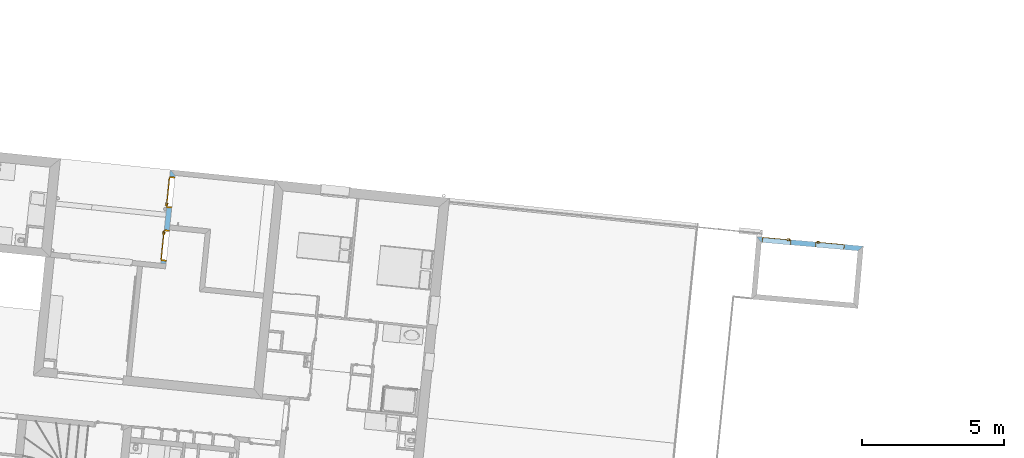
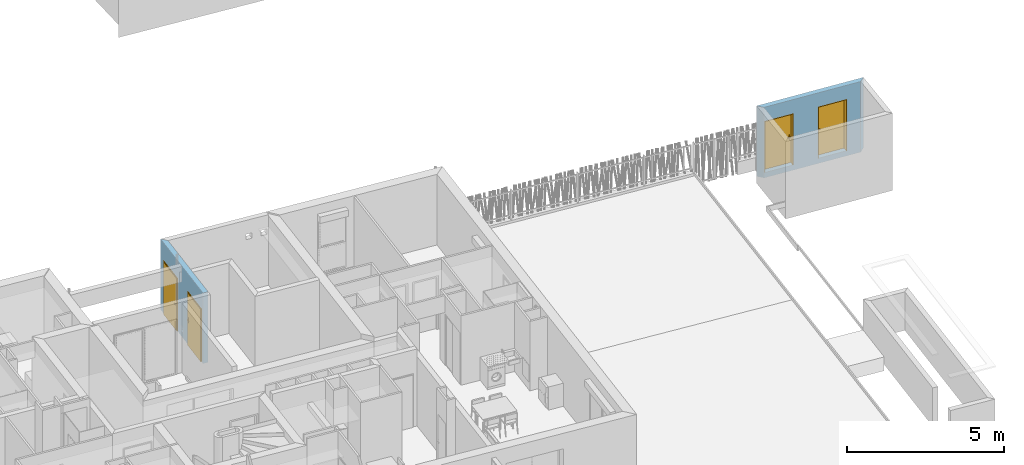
# One storey, part 112 of 171: 4 doors, 5 openings, plus 2 elements that do not belong to this part.
"""IFC2X3 building model written with IfcOpenShell, lengths in millimetres."""

from ifc_helpers import new_model, entity, si_unit, converted_unit, derived_unit, money_unit, direction, frame, origin_with_axes, origin_2d_with_axis, place, context, subcontext, project, spatial, polyline, rectangle, outline, extrude, faceted_brep, material, layer, layer_set, layer_usage, type_object, element, fill, save


model = new_model("IFC2X3")

# Units and contexts
model_context = context("Model", 3, precision=0.01, world=origin_with_axes(), true_north=direction((0.0, 1.0)))
body_context = subcontext(model_context, "Body", "Model", "MODEL_VIEW")
ifc_project = project(units=[si_unit("LENGTHUNIT", "METRE", prefix="MILLI"), si_unit("AREAUNIT", "SQUARE_METRE"), si_unit("VOLUMEUNIT", "CUBIC_METRE"), converted_unit("PLANEANGLEUNIT", "DEGREE", entity("IfcPlaneAngleMeasure", 0.0174532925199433), si_unit("PLANEANGLEUNIT", "RADIAN"), dimensions=[0, 0, 0, 0, 0, 0, 0]), money_unit("USD"), converted_unit("TIMEUNIT", "Year", entity("IfcTimeMeasure", 31557600.0), si_unit("TIMEUNIT", "SECOND"), dimensions=[0, 0, 1, 0, 0, 0, 0]), si_unit("MASSUNIT", "GRAM", prefix="KILO"), si_unit("THERMODYNAMICTEMPERATUREUNIT", "DEGREE_CELSIUS"), si_unit("LUMINOUSINTENSITYUNIT", "LUMEN"), si_unit("ENERGYUNIT", "JOULE", prefix="MEGA"), derived_unit("THERMALCONDUCTANCEUNIT", [(si_unit("POWERUNIT", "WATT"), 1), (si_unit("LENGTHUNIT", "METRE"), -1), (si_unit("THERMODYNAMICTEMPERATUREUNIT", "KELVIN"), -1)]), derived_unit("SPECIFICHEATCAPACITYUNIT", [(si_unit("ENERGYUNIT", "JOULE"), 1), (si_unit("MASSUNIT", "GRAM", prefix="KILO"), -1), (si_unit("THERMODYNAMICTEMPERATUREUNIT", "KELVIN"), -1)]), derived_unit("MASSDENSITYUNIT", [(si_unit("MASSUNIT", "GRAM", prefix="KILO"), 1), (si_unit("VOLUMEUNIT", "CUBIC_METRE"), -1)])], contexts=[model_context])

# Site, building, storey
site_placement = place(None, origin_with_axes())
site = spatial("IfcSite", under=ifc_project, at=site_placement, Name="Site", CompositionType="ELEMENT")
building_placement = place(site_placement, origin_with_axes())
building = spatial("IfcBuilding", under=site, at=building_placement, Name="Bâtiment", CompositionType="ELEMENT")
storey_placement = place(building_placement, frame((0.0, 0.0, 3000.0), z_axis=(0.0, 0.0, 1.0), x_axis=(1.0, 0.0, 0.0)))
storey = spatial("IfcBuildingStorey", under=building, at=storey_placement, Name="rdc", CompositionType="ELEMENT", Elevation=3000.0)

# Wall, openings, doors
ifc_material = material(Name="Parpaing 314940890")
ifc_layer = layer(ifc_material, 180.0, ventilated="UNKNOWN")
ifc_layer_set = layer_set([ifc_layer], Name="Beton  18 0018356637")
ifc_layer_usage_1 = layer_usage(ifc_layer_set, "AXIS2", "POSITIVE", 0.0)
wall_type = type_object("IfcWallType", Name="Beton  18 0018356637 180", PredefinedType="NOTDEFINED")
wall_1_placement = place(storey_placement, frame((2254723.103832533, -607922.215474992, -600.0000000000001), z_axis=(0.0, 0.0, 1.0), x_axis=(-0.9961532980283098, 0.08762766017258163, 0.0)))
wall_1 = element("IfcWallStandardCase", 1, at=wall_1_placement, inside=storey, type_object=wall_type, material=ifc_layer_usage_1, Name="Mur-142", context=body_context, shape_type="SweptSolid", body=[
    extrude(outline(polyline([(0.0, 0.0), (3762.228864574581, 0.0), (3582.228864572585, 179.9999999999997), (179.9999999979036, 179.9999999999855), (0.0, 0.0)])), origin_with_axes(), (0.0, 0.0, 1.0), 2750.0),
])
opening_1_placement = place(wall_1_placement, frame((3054.178626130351, 0.0, 200.0000000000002), z_axis=(0.0, 0.0, 1.0), x_axis=(1.0, 0.0, 0.0)))
opening_1 = element("IfcOpeningElement", 2, at=opening_1_placement, cuts=wall_1, Name="Por-277", context=body_context, shape_type="SweptSolid", body=[
    extrude(rectangle(XDim=1020.000001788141, YDim=2010.0, at=origin_2d_with_axis()), frame((8.940332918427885e-07, 179.9999999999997, 1005.0), z_axis=(0.0, 1.0, 0.0), x_axis=(1.0, 0.0, 0.0)), (0.0, 0.0, -1.0), 360.0),
])
opening_2_placement = place(wall_1_placement, frame((1175.34071080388, 0.0, 200.0000000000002), z_axis=(0.0, 0.0, 1.0), x_axis=(1.0, 0.0, 0.0)))
opening_2 = element("IfcOpeningElement", 3, at=opening_2_placement, cuts=wall_1, Name="Por-277", context=body_context, shape_type="SweptSolid", body=[
    extrude(rectangle(XDim=1020.000001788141, YDim=2010.0, at=origin_2d_with_axis()), frame((-8.940332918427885e-07, 179.9999999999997, 1005.0), z_axis=(0.0, -1.0, 0.0), x_axis=(-1.0, 0.0, 0.0)), (0.0, 0.0, 1.0), 360.0),
])
door_style = type_object("IfcDoorStyle", Name="Porte_1v", ConstructionType="NOTDEFINED", OperationType="NOTDEFINED", ParameterTakesPrecedence=False, Sizeable=False)
door_1_placement = place(opening_1_placement, frame((499.9999999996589, 0.0, 0.0), z_axis=(0.0, 0.0, 1.0), x_axis=(-1.0, 0.0, 0.0)))
door_1 = element("IfcDoor", 4, at=door_1_placement, inside=storey, type_object=door_style, Name="Por-277", OverallHeight=2000.0, OverallWidth=1000.0, context=body_context, shape_type="Brep", body=[
    faceted_brep([(-10.00000000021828, 0.0, 0.0), (-10.00000000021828, 0.0, 2009.999999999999), (1009.999999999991, 0.0, 2009.999999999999), (1009.999999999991, 0.0, 0.0), (999.9999999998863, 0.0, 0.0), (999.9999999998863, 0.0, 2000.0), (0.0, 0.0, 2000.0), (0.0, 0.0, 0.0), (-10.00000000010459, -180.0000000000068, 0.0), (-10.00000000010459, -180.0000000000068, 2009.999999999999), (1009.999999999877, -180.0000000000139, 2009.999999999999), (1009.999999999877, -180.0000000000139, 0.0), (989.9999999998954, -180.0000000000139, 0.0), (990.0000000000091, -15.00000000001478, 0.0), (999.9999999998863, -15.00000000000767, 0.0), (999.9999999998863, -15.00000000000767, 2000.0), (-1.13686837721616e-10, -15.00000000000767, 2000.0), (-1.13686837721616e-10, -15.00000000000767, 0.0), (9.999999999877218, -15.00000000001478, 0.0), (9.999999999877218, -180.0000000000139, 0.0), (9.999999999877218, -180.0000000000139, 1990.0), (989.9999999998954, -180.0000000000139, 1990.0), (990.0000000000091, -15.00000000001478, 1990.0), (9.999999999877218, -15.00000000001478, 1990.0)], [[[0, 1, 2, 3, 4, 5, 6, 7]], [[8, 9, 1, 0]], [[9, 10, 2, 1]], [[10, 11, 3, 2]], [[3, 11, 12, 13, 14, 4]], [[5, 4, 14, 15]], [[6, 5, 15, 16]], [[7, 6, 16, 17]], [[0, 7, 17, 18, 19, 8]], [[19, 20, 21, 12, 11, 10, 9, 8]], [[22, 13, 12, 21]], [[17, 16, 15, 14, 13, 22, 23, 18]], [[18, 23, 20, 19]], [[23, 22, 21, 20]]]),
    faceted_brep([(934.9999999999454, -15.00000000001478, 899.9999999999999), (934.9999999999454, -15.00000000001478, 1100.0), (974.999999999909, -15.00000000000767, 1100.0), (974.999999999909, -15.00000000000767, 899.9999999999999), (934.9999999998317, -25.00000000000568, 899.9999999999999), (934.9999999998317, -25.00000000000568, 1100.0), (974.999999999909, -25.00000000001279, 1100.0), (974.999999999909, -25.00000000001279, 899.9999999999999)], [[[0, 1, 2, 3]], [[0, 4, 5, 1]], [[1, 5, 6, 2]], [[2, 6, 7, 3]], [[3, 7, 4, 0]], [[7, 6, 5, 4]]]),
    faceted_brep([(864.9999999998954, -25.0000000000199, 1000.0), (864.9999999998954, -25.0000000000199, 1020.0), (964.9999999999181, -25.00000000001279, 1020.0), (964.9999999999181, -25.00000000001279, 1000.0), (864.9999999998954, -45.00000000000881, 1000.0), (864.9999999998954, -45.00000000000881, 1020.0), (964.9999999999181, -45.00000000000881, 1020.0), (964.9999999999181, -45.00000000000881, 1000.0)], [[[0, 1, 2, 3]], [[0, 4, 5, 1]], [[1, 5, 6, 2]], [[2, 6, 7, 3]], [[3, 7, 4, 0]], [[7, 6, 5, 4]]]),
    faceted_brep([(934.9999999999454, 14.99999999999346, 899.9999999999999), (934.9999999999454, 14.99999999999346, 1100.0), (974.999999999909, 14.99999999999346, 1100.0), (974.999999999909, 14.99999999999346, 899.9999999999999), (934.9999999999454, 4.999999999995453, 899.9999999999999), (934.9999999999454, 4.999999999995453, 1100.0), (974.9999999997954, 4.999999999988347, 1100.0), (974.9999999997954, 4.999999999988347, 899.9999999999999)], [[[0, 1, 2, 3]], [[0, 4, 5, 1]], [[1, 5, 6, 2]], [[2, 6, 7, 3]], [[3, 7, 4, 0]], [[7, 6, 5, 4]]]),
    faceted_brep([(864.9999999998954, 34.99999999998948, 1000.0), (864.9999999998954, 34.99999999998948, 1020.0), (964.9999999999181, 34.99999999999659, 1020.0), (964.9999999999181, 34.99999999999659, 1000.0), (864.9999999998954, 14.99999999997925, 1000.0), (864.9999999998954, 14.99999999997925, 1020.0), (964.9999999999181, 14.99999999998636, 1020.0), (964.9999999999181, 14.99999999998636, 1000.0)], [[[0, 1, 2, 3]], [[0, 4, 5, 1]], [[1, 5, 6, 2]], [[2, 6, 7, 3]], [[3, 7, 4, 0]], [[7, 6, 5, 4]]]),
    faceted_brep([(999.9999999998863, 4.999999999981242, 0.0), (999.9999999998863, -15.00000000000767, 0.0), (-1.13686837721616e-10, -15.00000000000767, 0.0), (0.0, 4.999999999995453, 0.0), (999.9999999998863, 4.999999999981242, 2000.0), (999.9999999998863, -15.00000000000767, 2000.0), (-1.13686837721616e-10, -15.00000000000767, 2000.0), (0.0, 4.999999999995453, 2000.0)], [[[0, 1, 2, 3]], [[4, 5, 1, 0]], [[1, 5, 6, 2]], [[3, 2, 6, 7]], [[0, 3, 7, 4]], [[7, 6, 5, 4]]]),
])
fill(opening_1, door_1)
door_2_placement = place(opening_2_placement, frame((500.0000000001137, 0.0, 0.0), z_axis=(0.0, 0.0, 1.0), x_axis=(-1.0, 0.0, 0.0)))
door_2 = element("IfcDoor", 5, at=door_2_placement, inside=storey, type_object=door_style, Name="Por-277", OverallHeight=2000.0, OverallWidth=1000.0, context=body_context, shape_type="Brep", body=[
    faceted_brep([(1009.999999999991, 0.0, 0.0), (1000.0, 0.0, 0.0), (1000.0, 0.0, 2000.0), (0.0, 0.0, 2000.0), (0.0, 0.0, 0.0), (-9.999999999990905, 0.0, 0.0), (-9.999999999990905, 0.0, 2009.999999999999), (1009.999999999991, 0.0, 2009.999999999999), (1009.999999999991, -180.0000000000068, 0.0), (990.0000000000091, -180.0000000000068, 0.0), (990.0000000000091, -14.99999999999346, 0.0), (1000.0, -15.00000000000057, 0.0), (1000.0, -15.00000000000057, 2000.0), (0.0, -15.00000000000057, 2000.0), (0.0, -15.00000000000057, 0.0), (9.999999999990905, -14.99999999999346, 0.0), (9.999999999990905, -179.9999999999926, 0.0), (-9.999999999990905, -179.9999999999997, 0.0), (-9.999999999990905, -179.9999999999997, 2009.999999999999), (1009.999999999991, -180.0000000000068, 2009.999999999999), (9.999999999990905, -179.9999999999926, 1990.0), (990.0000000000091, -180.0000000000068, 1990.0), (990.0000000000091, -14.99999999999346, 1990.0), (9.999999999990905, -14.99999999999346, 1990.0)], [[[0, 1, 2, 3, 4, 5, 6, 7]], [[0, 8, 9, 10, 11, 1]], [[1, 11, 12, 2]], [[2, 12, 13, 3]], [[3, 13, 14, 4]], [[5, 4, 14, 15, 16, 17]], [[18, 6, 5, 17]], [[19, 7, 6, 18]], [[8, 0, 7, 19]], [[9, 8, 19, 18, 17, 16, 20, 21]], [[10, 9, 21, 22]], [[11, 10, 22, 23, 15, 14, 13, 12]], [[23, 20, 16, 15]], [[22, 21, 20, 23]]]),
    faceted_brep([(64.99999999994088, -15.00000000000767, 899.9999999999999), (25.00000000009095, -15.00000000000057, 899.9999999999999), (25.00000000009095, -15.00000000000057, 1100.0), (64.99999999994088, -15.00000000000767, 1100.0), (64.99999999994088, -24.99999999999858, 899.9999999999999), (25.00000000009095, -24.99999999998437, 899.9999999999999), (25.00000000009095, -24.99999999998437, 1100.0), (64.99999999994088, -24.99999999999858, 1100.0)], [[[0, 1, 2, 3]], [[1, 0, 4, 5]], [[2, 1, 5, 6]], [[3, 2, 6, 7]], [[0, 3, 7, 4]], [[5, 4, 7, 6]]]),
    faceted_brep([(134.9999999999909, -24.99999999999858, 1000.0), (34.99999999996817, -25.00000000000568, 1000.0), (34.99999999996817, -25.00000000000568, 1020.0), (134.9999999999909, -24.99999999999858, 1020.0), (135.0000000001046, -44.9999999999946, 1000.0), (34.99999999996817, -44.9999999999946, 1000.0), (34.99999999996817, -44.9999999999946, 1020.0), (135.0000000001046, -44.9999999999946, 1020.0)], [[[0, 1, 2, 3]], [[1, 0, 4, 5]], [[2, 1, 5, 6]], [[3, 2, 6, 7]], [[0, 3, 7, 4]], [[5, 4, 7, 6]]]),
    faceted_brep([(65.00000000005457, 15.00000000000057, 899.9999999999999), (24.99999999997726, 15.00000000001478, 899.9999999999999), (24.99999999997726, 15.00000000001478, 1100.0), (65.00000000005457, 15.00000000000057, 1100.0), (65.00000000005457, 4.999999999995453, 899.9999999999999), (24.99999999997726, 5.000000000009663, 899.9999999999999), (24.99999999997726, 5.000000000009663, 1100.0), (65.00000000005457, 4.999999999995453, 1100.0)], [[[0, 1, 2, 3]], [[1, 0, 4, 5]], [[2, 1, 5, 6]], [[3, 2, 6, 7]], [[0, 3, 7, 4]], [[5, 4, 7, 6]]]),
    faceted_brep([(135.0000000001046, 35.0000000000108, 1000.0), (34.99999999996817, 35.00000000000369, 1000.0), (34.99999999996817, 35.00000000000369, 1020.0), (135.0000000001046, 35.0000000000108, 1020.0), (134.9999999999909, 15.00000000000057, 1000.0), (35.00000000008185, 14.99999999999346, 1000.0), (35.00000000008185, 14.99999999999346, 1020.0), (134.9999999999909, 15.00000000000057, 1020.0)], [[[0, 1, 2, 3]], [[1, 0, 4, 5]], [[2, 1, 5, 6]], [[3, 2, 6, 7]], [[0, 3, 7, 4]], [[5, 4, 7, 6]]]),
    faceted_brep([(0.0, 5.000000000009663, 0.0), (1000.0, 5.000000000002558, 0.0), (1000.0, -15.00000000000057, 0.0), (0.0, -15.00000000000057, 0.0), (0.0, 5.000000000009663, 2000.0), (1000.0, 5.000000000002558, 2000.0), (1000.0, -15.00000000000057, 2000.0), (0.0, -15.00000000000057, 2000.0)], [[[0, 1, 2, 3]], [[0, 4, 5, 1]], [[1, 5, 6, 2]], [[3, 2, 6, 7]], [[4, 0, 3, 7]], [[5, 4, 7, 6]]]),
])
fill(opening_2, door_2)

ifc_layer_usage_2 = layer_usage(ifc_layer_set, "AXIS2", "POSITIVE", 0.0)
wall_2_placement = place(storey_placement, frame((2230375.549323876, -605239.4852255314, 0.0), z_axis=(0.0, 0.0, 1.0), x_axis=(-0.1011032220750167, -0.9948759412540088, 0.0)))
wall_2 = element("IfcWallStandardCase", 6, at=wall_2_placement, inside=storey, type_object=wall_type, material=ifc_layer_usage_2, Name="Mur-142", context=body_context, shape_type="SweptSolid", body=[
    extrude(outline(polyline([(0.0, 0.0), (3300.366692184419, 0.0), (3300.383693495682, 180.0000000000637), (180.000000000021, 180.0000000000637), (0.0, 0.0)])), origin_with_axes(), (0.0, 0.0, 1.0), 2750.0),
])
opening_3_placement = place(wall_2_placement, frame((1679.999976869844, -1.13686837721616e-10, 200.0000000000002), z_axis=(0.0, 0.0, 1.0), x_axis=(1.0, 0.0, 0.0)))
element("IfcOpeningElement", 7, at=opening_3_placement, cuts=wall_2, Name="Fen-210", context=body_context, shape_type="SweptSolid", body=[
    extrude(rectangle(XDim=209.9999999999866, YDim=210.0, at=origin_2d_with_axis()), frame((0.0, 290.0000000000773, 105.0), z_axis=(0.0, 1.0, 0.0), x_axis=(1.0, 0.0, 0.0)), (0.0, 0.0, -1.0), 470.0),
    extrude(rectangle(XDim=209.9999999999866, YDim=210.0, at=origin_2d_with_axis()), frame((0.0, 289.9999999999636, 105.0), z_axis=(0.0, -1.0, 0.0), x_axis=(1.0, 0.0, 0.0)), (0.0, 0.0, -1.0), 470.0),
])
opening_4_placement = place(wall_2_placement, frame((2662.573142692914, 0.0, 0.0), z_axis=(0.0, 0.0, 1.0), x_axis=(1.0, 0.0, 0.0)))
opening_4 = element("IfcOpeningElement", 8, at=opening_4_placement, cuts=wall_2, Name="Por-302", context=body_context, shape_type="SweptSolid", body=[
    extrude(rectangle(XDim=1109.999992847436, YDim=2080.0, at=origin_2d_with_axis()), frame((-3.576268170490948e-06, 179.9999999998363, 1040.0), z_axis=(0.0, 1.0, 0.0), x_axis=(1.0, 0.0, 0.0)), (0.0, 0.0, -1.0), 360.0),
])
opening_5_placement = place(wall_2_placement, frame((784.7579754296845, -1.13686837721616e-10, 0.0), z_axis=(0.0, 0.0, 1.0), x_axis=(1.0, 0.0, 0.0)))
opening_5 = element("IfcOpeningElement", 9, at=opening_5_placement, cuts=wall_2, Name="Por-302", context=body_context, shape_type="SweptSolid", body=[
    extrude(rectangle(XDim=1109.999992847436, YDim=2080.0, at=origin_2d_with_axis()), frame((3.576296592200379e-06, 179.99999999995, 1040.0), z_axis=(0.0, -1.0, 0.0), x_axis=(-1.0, 0.0, 0.0)), (0.0, 0.0, 1.0), 360.0),
])
door_3_placement = place(opening_4_placement, frame((515.000000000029, -1.13686837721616e-10, 0.0), z_axis=(0.0, 0.0, 1.0), x_axis=(-1.0, 0.0, 0.0)))
door_3 = element("IfcDoor", 10, at=door_3_placement, inside=storey, type_object=door_style, Name="Por-302", OverallHeight=2040.0, OverallWidth=1030.0, context=body_context, shape_type="Brep", body=[
    faceted_brep([(-40.00000000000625, -1.13686837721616e-10, 0.0), (-40.00000000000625, -1.13686837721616e-10, 2080.0), (1069.999999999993, 0.0, 2080.0), (1069.999999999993, 0.0, 0.0), (1030.000000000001, 0.0, 0.0), (1030.000000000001, 0.0, 2040.0), (0.0, 0.0, 2040.0), (0.0, 0.0, 0.0), (-39.99999999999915, -180.0000000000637, 0.0), (-39.99999999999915, -180.0000000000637, 2080.0), (1069.999999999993, -179.99999999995, 2080.0), (1069.999999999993, -179.99999999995, 0.0), (1014.999999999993, -180.0000000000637, 0.0), (1015.000000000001, -15.00000000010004, 0.0), (1029.999999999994, -14.99999999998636, 0.0), (1029.999999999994, -14.99999999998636, 2040.0), (0.0, -15.00000000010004, 2040.0), (0.0, -15.00000000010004, 0.0), (15.00000000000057, -14.99999999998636, 0.0), (15.00000000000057, -179.99999999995, 0.0), (15.00000000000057, -179.99999999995, 2025.0), (1014.999999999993, -180.0000000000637, 2025.0), (1015.000000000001, -15.00000000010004, 2025.0), (15.00000000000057, -14.99999999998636, 2025.0)], [[[0, 1, 2, 3, 4, 5, 6, 7]], [[8, 9, 1, 0]], [[9, 10, 2, 1]], [[10, 11, 3, 2]], [[3, 11, 12, 13, 14, 4]], [[5, 4, 14, 15]], [[6, 5, 15, 16]], [[7, 6, 16, 17]], [[0, 7, 17, 18, 19, 8]], [[19, 20, 21, 12, 11, 10, 9, 8]], [[22, 13, 12, 21]], [[17, 16, 15, 14, 13, 22, 23, 18]], [[18, 23, 20, 19]], [[23, 22, 21, 20]]]),
    faceted_brep([(964.9999999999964, -15.00000000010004, 899.9999999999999), (964.9999999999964, -15.00000000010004, 1100.0), (1005.000000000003, -15.00000000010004, 1100.0), (1005.000000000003, -15.00000000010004, 899.9999999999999), (965.0000000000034, -24.99999999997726, 899.9999999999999), (965.0000000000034, -24.99999999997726, 1100.0), (1005.000000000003, -24.99999999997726, 1100.0), (1005.000000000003, -24.99999999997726, 899.9999999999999)], [[[0, 1, 2, 3]], [[0, 4, 5, 1]], [[1, 5, 6, 2]], [[2, 6, 7, 3]], [[3, 7, 4, 0]], [[7, 6, 5, 4]]]),
    faceted_brep([(894.9999999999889, -25.00000000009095, 1000.0), (894.9999999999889, -25.00000000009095, 1020.0), (995.0000000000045, -25.00000000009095, 1020.0), (995.0000000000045, -25.00000000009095, 1000.0), (894.999999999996, -45.00000000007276, 1000.0), (894.999999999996, -45.00000000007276, 1020.0), (994.9999999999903, -44.99999999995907, 1020.0), (994.9999999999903, -44.99999999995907, 1000.0)], [[[0, 1, 2, 3]], [[0, 4, 5, 1]], [[1, 5, 6, 2]], [[2, 6, 7, 3]], [[3, 7, 4, 0]], [[7, 6, 5, 4]]]),
    faceted_brep([(964.9999999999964, 34.99999999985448, 899.9999999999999), (964.9999999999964, 34.99999999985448, 1100.0), (1004.999999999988, 34.99999999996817, 1100.0), (1004.999999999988, 34.99999999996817, 899.9999999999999), (964.9999999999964, 24.99999999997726, 899.9999999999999), (964.9999999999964, 24.99999999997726, 1100.0), (1004.999999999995, 24.99999999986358, 1100.0), (1004.999999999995, 24.99999999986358, 899.9999999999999)], [[[0, 1, 2, 3]], [[0, 4, 5, 1]], [[1, 5, 6, 2]], [[2, 6, 7, 3]], [[3, 7, 4, 0]], [[7, 6, 5, 4]]]),
    faceted_brep([(894.9999999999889, 54.99999999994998, 1000.0), (894.9999999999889, 54.99999999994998, 1020.0), (994.9999999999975, 54.99999999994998, 1020.0), (994.9999999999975, 54.99999999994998, 1000.0), (894.999999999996, 34.99999999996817, 1000.0), (894.999999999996, 34.99999999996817, 1020.0), (995.0000000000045, 34.99999999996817, 1020.0), (995.0000000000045, 34.99999999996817, 1000.0)], [[[0, 1, 2, 3]], [[0, 4, 5, 1]], [[1, 5, 6, 2]], [[2, 6, 7, 3]], [[3, 7, 4, 0]], [[7, 6, 5, 4]]]),
    faceted_brep([(1029.999999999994, 24.99999999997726, 0.0), (1029.999999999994, -14.99999999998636, 0.0), (0.0, -15.00000000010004, 0.0), (0.0, 24.99999999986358, 0.0), (1029.999999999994, 24.99999999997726, 2040.0), (1029.999999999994, -14.99999999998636, 2040.0), (0.0, -15.00000000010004, 2040.0), (0.0, 24.99999999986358, 2040.0)], [[[0, 1, 2, 3]], [[4, 5, 1, 0]], [[1, 5, 6, 2]], [[3, 2, 6, 7]], [[0, 3, 7, 4]], [[7, 6, 5, 4]]]),
])
fill(opening_4, door_3)
door_4_placement = place(opening_5_placement, frame((515.0000000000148, -2.273736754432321e-10, 0.0), z_axis=(0.0, 0.0, 1.0), x_axis=(-1.0, 0.0, 0.0)))
door_4 = element("IfcDoor", 11, at=door_4_placement, inside=storey, type_object=door_style, Name="Por-302", OverallHeight=2040.0, OverallWidth=1030.0, context=body_context, shape_type="Brep", body=[
    faceted_brep([(1069.999999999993, 0.0, 0.0), (1030.000000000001, -2.273736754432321e-10, 0.0), (1030.000000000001, -2.273736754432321e-10, 2040.0), (0.0, 0.0, 2040.0), (0.0, 0.0, 0.0), (-40.00000000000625, -1.13686837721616e-10, 0.0), (-40.00000000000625, -1.13686837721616e-10, 2080.0), (1069.999999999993, 0.0, 2080.0), (1069.999999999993, -180.0000000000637, 0.0), (1014.999999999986, -180.0000000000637, 0.0), (1015.000000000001, -15.00000000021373, 0.0), (1029.999999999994, -15.00000000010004, 0.0), (1029.999999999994, -15.00000000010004, 2040.0), (0.0, -15.00000000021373, 2040.0), (0.0, -15.00000000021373, 0.0), (14.99999999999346, -15.00000000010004, 0.0), (14.99999999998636, -180.0000000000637, 0.0), (-39.99999999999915, -180.0000000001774, 0.0), (-39.99999999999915, -180.0000000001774, 2080.0), (1069.999999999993, -180.0000000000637, 2080.0), (14.99999999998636, -180.0000000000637, 2025.0), (1014.999999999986, -180.0000000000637, 2025.0), (1015.000000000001, -15.00000000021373, 2025.0), (14.99999999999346, -15.00000000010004, 2025.0)], [[[0, 1, 2, 3, 4, 5, 6, 7]], [[0, 8, 9, 10, 11, 1]], [[1, 11, 12, 2]], [[2, 12, 13, 3]], [[3, 13, 14, 4]], [[5, 4, 14, 15, 16, 17]], [[18, 6, 5, 17]], [[19, 7, 6, 18]], [[8, 0, 7, 19]], [[9, 8, 19, 18, 17, 16, 20, 21]], [[10, 9, 21, 22]], [[11, 10, 22, 23, 15, 14, 13, 12]], [[23, 20, 16, 15]], [[22, 21, 20, 23]]]),
    faceted_brep([(65.00000000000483, -15.00000000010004, 899.9999999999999), (24.99999999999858, -15.00000000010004, 899.9999999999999), (24.99999999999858, -15.00000000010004, 1100.0), (65.00000000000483, -15.00000000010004, 1100.0), (64.99999999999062, -25.00000000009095, 899.9999999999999), (24.99999999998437, -24.99999999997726, 899.9999999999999), (24.99999999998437, -24.99999999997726, 1100.0), (64.99999999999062, -25.00000000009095, 1100.0)], [[[0, 1, 2, 3]], [[1, 0, 4, 5]], [[2, 1, 5, 6]], [[3, 2, 6, 7]], [[0, 3, 7, 4]], [[5, 4, 7, 6]]]),
    faceted_brep([(134.9999999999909, -25.00000000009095, 1000.0), (34.99999999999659, -25.00000000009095, 1000.0), (34.99999999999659, -25.00000000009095, 1020.0), (134.9999999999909, -25.00000000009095, 1020.0), (134.9999999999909, -45.00000000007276, 1000.0), (34.99999999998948, -45.00000000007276, 1000.0), (34.99999999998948, -45.00000000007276, 1020.0), (134.9999999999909, -45.00000000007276, 1020.0)], [[[0, 1, 2, 3]], [[1, 0, 4, 5]], [[2, 1, 5, 6]], [[3, 2, 6, 7]], [[0, 3, 7, 4]], [[5, 4, 7, 6]]]),
    faceted_brep([(64.99999999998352, 34.99999999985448, 899.9999999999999), (24.99999999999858, 34.99999999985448, 899.9999999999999), (24.99999999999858, 34.99999999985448, 1100.0), (64.99999999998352, 34.99999999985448, 1100.0), (64.99999999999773, 24.99999999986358, 899.9999999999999), (24.99999999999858, 24.99999999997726, 899.9999999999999), (24.99999999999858, 24.99999999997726, 1100.0), (64.99999999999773, 24.99999999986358, 1100.0)], [[[0, 1, 2, 3]], [[1, 0, 4, 5]], [[2, 1, 5, 6]], [[3, 2, 6, 7]], [[0, 3, 7, 4]], [[5, 4, 7, 6]]]),
    faceted_brep([(134.9999999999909, 54.99999999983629, 1000.0), (34.99999999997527, 54.99999999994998, 1000.0), (34.99999999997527, 54.99999999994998, 1020.0), (134.9999999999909, 54.99999999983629, 1020.0), (135.0000000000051, 34.99999999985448, 1000.0), (34.99999999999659, 34.99999999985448, 1000.0), (34.99999999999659, 34.99999999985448, 1020.0), (135.0000000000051, 34.99999999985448, 1020.0)], [[[0, 1, 2, 3]], [[1, 0, 4, 5]], [[2, 1, 5, 6]], [[3, 2, 6, 7]], [[0, 3, 7, 4]], [[5, 4, 7, 6]]]),
    faceted_brep([(0.0, 24.99999999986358, 0.0), (1029.999999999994, 24.99999999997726, 0.0), (1029.999999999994, -15.00000000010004, 0.0), (0.0, -15.00000000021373, 0.0), (0.0, 24.99999999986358, 2040.0), (1029.999999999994, 24.99999999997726, 2040.0), (1029.999999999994, -15.00000000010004, 2040.0), (0.0, -15.00000000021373, 2040.0)], [[[0, 1, 2, 3]], [[0, 4, 5, 1]], [[1, 5, 6, 2]], [[3, 2, 6, 7]], [[4, 0, 3, 7]], [[5, 4, 7, 6]]]),
])
fill(opening_5, door_4)

save(model, "model.ifc")
